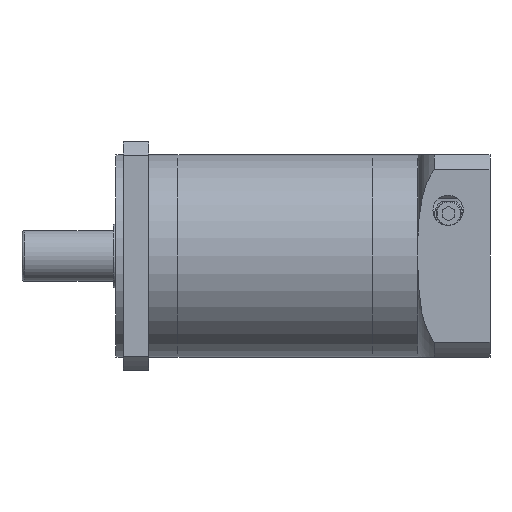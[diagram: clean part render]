
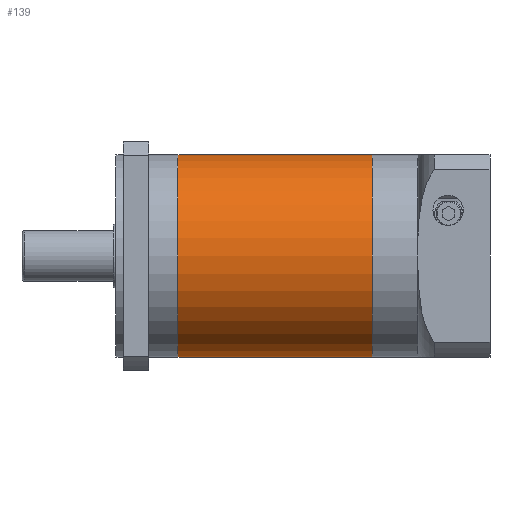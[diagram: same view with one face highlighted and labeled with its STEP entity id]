
A CAD part, left-side view. The second image highlights one B-rep face of the part: STEP entity #139.
In plain terms, the highlighted cylindrical face has radius 40 mm (diameter 80 mm), a partial arc.
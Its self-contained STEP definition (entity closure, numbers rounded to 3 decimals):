
#10 = EDGE_LOOP ( 'NONE', ( #231, #3519, #4707, #2316 ) ) ;
#139 = ADVANCED_FACE ( 'NONE', ( #391 ), #1321, .T. ) ;
#231 = ORIENTED_EDGE ( 'NONE', *, *, #1376, .F. ) ;
#263 = AXIS2_PLACEMENT_3D ( 'NONE', #4975, #4450, #4650 ) ;
#391 = FACE_OUTER_BOUND ( 'NONE', #10, .T. ) ;
#573 = EDGE_CURVE ( 'NONE', #920, #2833, #3676, .T. ) ;
#578 = CARTESIAN_POINT ( 'NONE',  ( 0., -101., 40. ) ) ;
#642 = CARTESIAN_POINT ( 'NONE',  ( 0., -101., 0. ) ) ;
#660 = VECTOR ( 'NONE', #4410, 1000. ) ;
#667 = VERTEX_POINT ( 'NONE', #4058 ) ;
#693 = CIRCLE ( 'NONE', #2054, 40. ) ;
#760 = EDGE_CURVE ( 'NONE', #667, #3544, #693, .T. ) ;
#790 = LINE ( 'NONE', #3515, #4951 ) ;
#809 = DIRECTION ( 'NONE',  ( 0., 0., 1. ) ) ;
#920 = VERTEX_POINT ( 'NONE', #4026 ) ;
#1126 = DIRECTION ( 'NONE',  ( 0., 1., 0. ) ) ;
#1321 = CYLINDRICAL_SURFACE ( 'NONE', #263, 40. ) ;
#1376 = EDGE_CURVE ( 'NONE', #667, #920, #790, .T. ) ;
#1744 = CARTESIAN_POINT ( 'NONE',  ( 0., -24.5, 0. ) ) ;
#1797 = DIRECTION ( 'NONE',  ( 0., 1., 0. ) ) ;
#1895 = AXIS2_PLACEMENT_3D ( 'NONE', #1744, #1797, #2505 ) ;
#1986 = CARTESIAN_POINT ( 'NONE',  ( 0., 0., 40. ) ) ;
#2054 = AXIS2_PLACEMENT_3D ( 'NONE', #642, #4282, #809 ) ;
#2316 = ORIENTED_EDGE ( 'NONE', *, *, #573, .F. ) ;
#2505 = DIRECTION ( 'NONE',  ( 0., 0., 1. ) ) ;
#2754 = LINE ( 'NONE', #1986, #660 ) ;
#2833 = VERTEX_POINT ( 'NONE', #4176 ) ;
#2979 = EDGE_CURVE ( 'NONE', #3544, #2833, #2754, .T. ) ;
#3515 = CARTESIAN_POINT ( 'NONE',  ( 0., 0., -40. ) ) ;
#3519 = ORIENTED_EDGE ( 'NONE', *, *, #760, .T. ) ;
#3544 = VERTEX_POINT ( 'NONE', #578 ) ;
#3676 = CIRCLE ( 'NONE', #1895, 40. ) ;
#4026 = CARTESIAN_POINT ( 'NONE',  ( 0., -24.5, -40. ) ) ;
#4058 = CARTESIAN_POINT ( 'NONE',  ( 0., -101., -40. ) ) ;
#4176 = CARTESIAN_POINT ( 'NONE',  ( 0., -24.5, 40. ) ) ;
#4282 = DIRECTION ( 'NONE',  ( 0., 1., 0. ) ) ;
#4410 = DIRECTION ( 'NONE',  ( 0., 1., 0. ) ) ;
#4450 = DIRECTION ( 'NONE',  ( 0., 1., 0. ) ) ;
#4650 = DIRECTION ( 'NONE',  ( 0., 0., 1. ) ) ;
#4707 = ORIENTED_EDGE ( 'NONE', *, *, #2979, .T. ) ;
#4951 = VECTOR ( 'NONE', #1126, 1000. ) ;
#4975 = CARTESIAN_POINT ( 'NONE',  ( 0., 0., 0. ) ) ;
